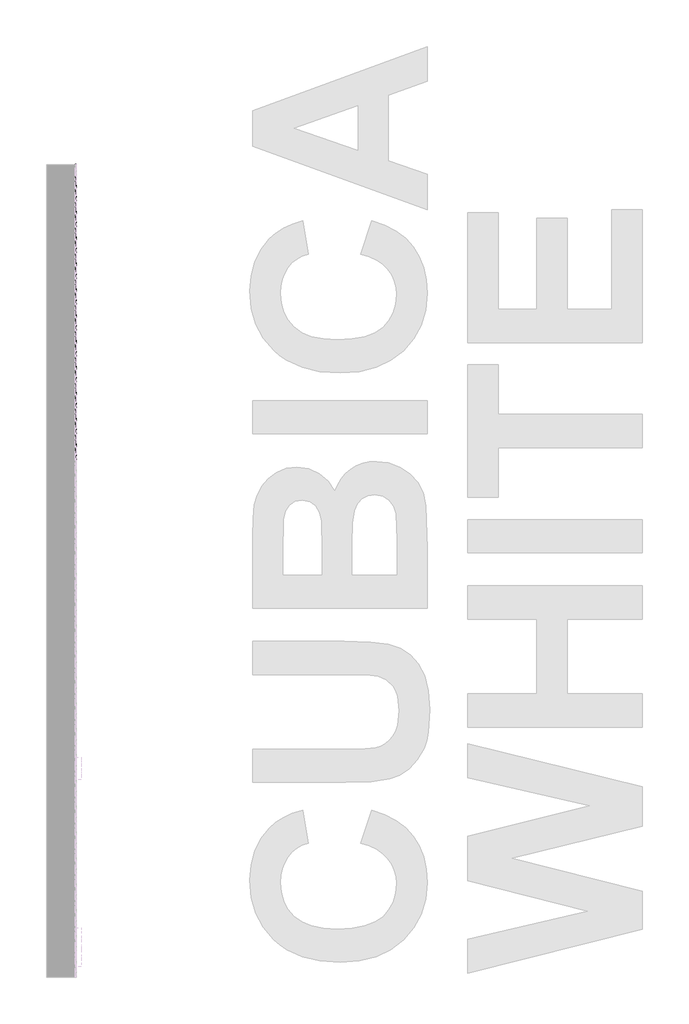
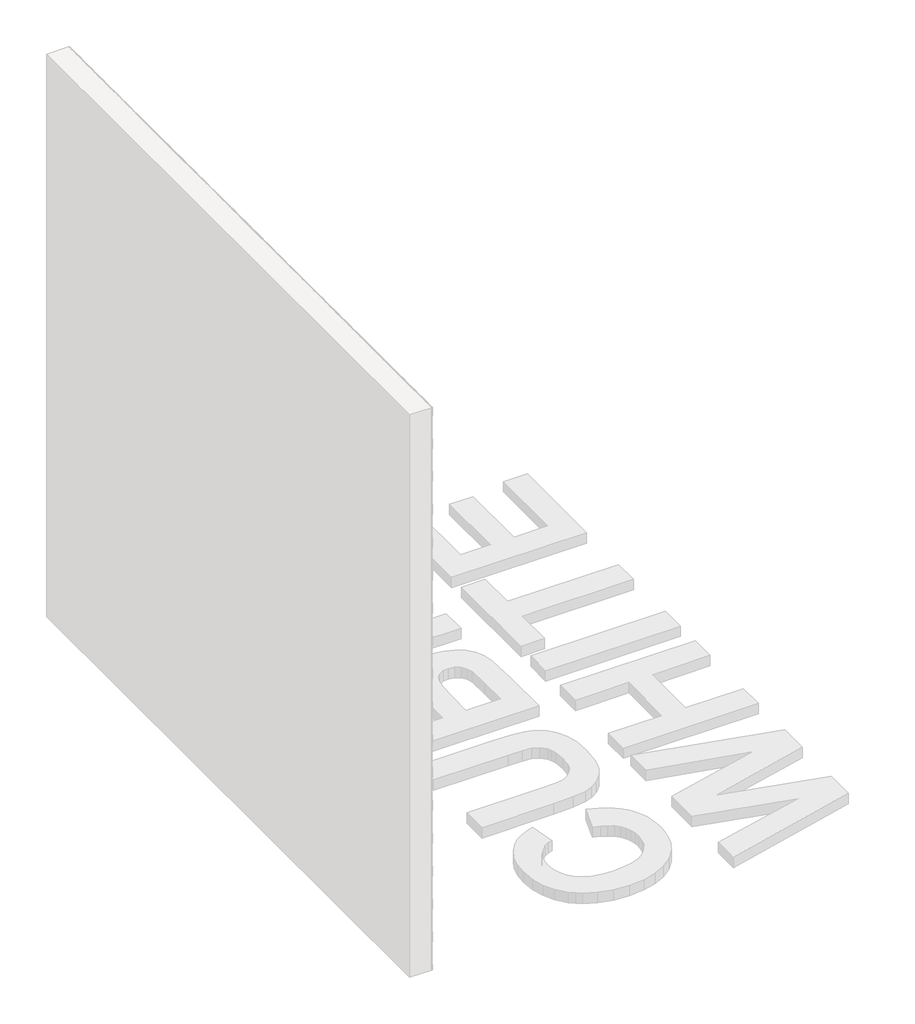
# One storey, part 116 of 121: 144 proxies.
"""IFC4 building model written with IfcOpenShell, lengths in millimetres."""

from ifc_helpers import new_model, si_unit, origin, place, context, project, spatial, transform, mapped, element, save
from components import generic_models_b2b2c5c1, generic_models_9bf73f6f, generic_models_5d175859, generic_models_0bb79e7c

model = new_model("IFC4")

# Units and contexts
model_context = context("Model", 3, world=origin())
ifc_project = project(units=[si_unit("LENGTHUNIT", "METRE", prefix="MILLI")], contexts=[model_context])

# Site, building, storey
site = spatial("IfcSite", under=ifc_project)
building = spatial("IfcBuilding", under=site)
storey = spatial("IfcBuildingStorey", under=building, Name="PORTOBELLO - SHOWROOM", Elevation=0.0)

# Proxies
placement = place(None, origin())
generic_models_shape = generic_models_b2b2c5c1(model_context)
element("IfcBuildingElementProxy", 1, Name="PBSHOP - CUBICA WHITE 4,8X8,3 : CUBICA WHITE - POSIÇÃO 01", ObjectType="PBSHOP - CUBICA WHITE 4,8X8,3 : CUBICA WHITE - POSIÇÃO 01", at=placement, inside=storey, context=model_context, shape_type="MappedRepresentation", body=[
    mapped(generic_models_shape, transform((150369.5341846, 21285.8509382, 986.6378273), x_axis=(0.0, 1.0, 0.0), y_axis=(0.0, 0.0, 1.0), z_axis=(1.0, 0.0, 0.0))),
])
element("IfcBuildingElementProxy", 2, Name="PBSHOP - CUBICA WHITE 4,8X8,3 : CUBICA WHITE - POSIÇÃO 01", ObjectType="PBSHOP - CUBICA WHITE 4,8X8,3 : CUBICA WHITE - POSIÇÃO 01", at=placement, inside=storey, context=model_context, shape_type="MappedRepresentation", body=[
    mapped(generic_models_shape, transform((150369.5341846, 21376.6902074, 986.6378273), x_axis=(0.0, 1.0, 0.0), y_axis=(0.0, 0.0, 1.0), z_axis=(1.0, 0.0, 0.0))),
])
element("IfcBuildingElementProxy", 3, Name="PBSHOP - CUBICA WHITE 4,8X8,3 : CUBICA WHITE - POSIÇÃO 01", ObjectType="PBSHOP - CUBICA WHITE 4,8X8,3 : CUBICA WHITE - POSIÇÃO 01", at=placement, inside=storey, context=model_context, shape_type="MappedRepresentation", body=[
    mapped(generic_models_shape, transform((150369.5341846, 21467.5294767, 986.6378273), x_axis=(0.0, 1.0, 0.0), y_axis=(0.0, 0.0, 1.0), z_axis=(1.0, 0.0, 0.0))),
])
element("IfcBuildingElementProxy", 4, Name="PBSHOP - CUBICA WHITE 4,8X8,3 : CUBICA WHITE - POSIÇÃO 01", ObjectType="PBSHOP - CUBICA WHITE 4,8X8,3 : CUBICA WHITE - POSIÇÃO 01", at=placement, inside=storey, context=model_context, shape_type="MappedRepresentation", body=[
    mapped(generic_models_shape, transform((150369.5341846, 21558.3687459, 986.6378273), x_axis=(0.0, 1.0, 0.0), y_axis=(0.0, 0.0, 1.0), z_axis=(1.0, 0.0, 0.0))),
])
element("IfcBuildingElementProxy", 5, Name="PBSHOP - CUBICA WHITE 4,8X8,3 : CUBICA WHITE - POSIÇÃO 01", ObjectType="PBSHOP - CUBICA WHITE 4,8X8,3 : CUBICA WHITE - POSIÇÃO 01", at=placement, inside=storey, context=model_context, shape_type="MappedRepresentation", body=[
    mapped(generic_models_shape, transform((150369.5341846, 21649.2080152, 986.6378273), x_axis=(0.0, 1.0, 0.0), y_axis=(0.0, 0.0, 1.0), z_axis=(1.0, 0.0, 0.0))),
])
element("IfcBuildingElementProxy", 6, Name="PBSHOP - CUBICA WHITE 4,8X8,3 : CUBICA WHITE - POSIÇÃO 01", ObjectType="PBSHOP - CUBICA WHITE 4,8X8,3 : CUBICA WHITE - POSIÇÃO 01", at=placement, inside=storey, context=model_context, shape_type="MappedRepresentation", body=[
    mapped(generic_models_shape, transform((150369.5341846, 21740.0472844, 986.6378273), x_axis=(0.0, 1.0, 0.0), y_axis=(0.0, 0.0, 1.0), z_axis=(1.0, 0.0, 0.0))),
])
element("IfcBuildingElementProxy", 7, Name="PBSHOP - CUBICA WHITE 4,8X8,3 : CUBICA WHITE - POSIÇÃO 01", ObjectType="PBSHOP - CUBICA WHITE 4,8X8,3 : CUBICA WHITE - POSIÇÃO 01", at=placement, inside=storey, context=model_context, shape_type="MappedRepresentation", body=[
    mapped(generic_models_shape, transform((150369.5341846, 21830.8865536, 986.6378273), x_axis=(0.0, 1.0, 0.0), y_axis=(0.0, 0.0, 1.0), z_axis=(1.0, 0.0, 0.0))),
])
element("IfcBuildingElementProxy", 8, Name="PBSHOP - CUBICA WHITE 4,8X8,3 : CUBICA WHITE - POSIÇÃO 01", ObjectType="PBSHOP - CUBICA WHITE 4,8X8,3 : CUBICA WHITE - POSIÇÃO 01", at=placement, inside=storey, context=model_context, shape_type="MappedRepresentation", body=[
    mapped(generic_models_shape, transform((150369.5341846, 21921.7258229, 986.6378273), x_axis=(0.0, 1.0, 0.0), y_axis=(0.0, 0.0, 1.0), z_axis=(1.0, 0.0, 0.0))),
])
element("IfcBuildingElementProxy", 9, Name="PBSHOP - CUBICA WHITE 4,8X8,3 : CUBICA WHITE - POSIÇÃO 01", ObjectType="PBSHOP - CUBICA WHITE 4,8X8,3 : CUBICA WHITE - POSIÇÃO 01", at=placement, inside=storey, context=model_context, shape_type="MappedRepresentation", body=[
    mapped(generic_models_shape, transform((150369.5341846, 21058.7527651, 1065.5724657), x_axis=(0.0, 1.0, 0.0), y_axis=(0.0, 0.0, 1.0), z_axis=(1.0, 0.0, 0.0))),
])
element("IfcBuildingElementProxy", 10, Name="PBSHOP - CUBICA WHITE 4,8X8,3 : CUBICA WHITE - POSIÇÃO 01", ObjectType="PBSHOP - CUBICA WHITE 4,8X8,3 : CUBICA WHITE - POSIÇÃO 01", at=placement, inside=storey, context=model_context, shape_type="MappedRepresentation", body=[
    mapped(generic_models_shape, transform((150369.5341846, 21149.5920343, 1065.5724657), x_axis=(0.0, 1.0, 0.0), y_axis=(0.0, 0.0, 1.0), z_axis=(1.0, 0.0, 0.0))),
])
element("IfcBuildingElementProxy", 11, Name="PBSHOP - CUBICA WHITE 4,8X8,3 : CUBICA WHITE - POSIÇÃO 01", ObjectType="PBSHOP - CUBICA WHITE 4,8X8,3 : CUBICA WHITE - POSIÇÃO 01", at=placement, inside=storey, context=model_context, shape_type="MappedRepresentation", body=[
    mapped(generic_models_shape, transform((150369.5341846, 21240.4313036, 1065.5724657), x_axis=(0.0, 1.0, 0.0), y_axis=(0.0, 0.0, 1.0), z_axis=(1.0, 0.0, 0.0))),
])
element("IfcBuildingElementProxy", 12, Name="PBSHOP - CUBICA WHITE 4,8X8,3 : CUBICA WHITE - POSIÇÃO 01", ObjectType="PBSHOP - CUBICA WHITE 4,8X8,3 : CUBICA WHITE - POSIÇÃO 01", at=placement, inside=storey, context=model_context, shape_type="MappedRepresentation", body=[
    mapped(generic_models_shape, transform((150369.5341846, 21331.2705728, 1065.5724657), x_axis=(0.0, 1.0, 0.0), y_axis=(0.0, 0.0, 1.0), z_axis=(1.0, 0.0, 0.0))),
])
element("IfcBuildingElementProxy", 13, Name="PBSHOP - CUBICA WHITE 4,8X8,3 : CUBICA WHITE - POSIÇÃO 01", ObjectType="PBSHOP - CUBICA WHITE 4,8X8,3 : CUBICA WHITE - POSIÇÃO 01", at=placement, inside=storey, context=model_context, shape_type="MappedRepresentation", body=[
    mapped(generic_models_shape, transform((150369.5341846, 21422.109842, 1065.5724657), x_axis=(0.0, 1.0, 0.0), y_axis=(0.0, 0.0, 1.0), z_axis=(1.0, 0.0, 0.0))),
])
element("IfcBuildingElementProxy", 14, Name="PBSHOP - CUBICA WHITE 4,8X8,3 : CUBICA WHITE - POSIÇÃO 01", ObjectType="PBSHOP - CUBICA WHITE 4,8X8,3 : CUBICA WHITE - POSIÇÃO 01", at=placement, inside=storey, context=model_context, shape_type="MappedRepresentation", body=[
    mapped(generic_models_shape, transform((150369.5341846, 21512.9491113, 1065.5724657), x_axis=(0.0, 1.0, 0.0), y_axis=(0.0, 0.0, 1.0), z_axis=(1.0, 0.0, 0.0))),
])
element("IfcBuildingElementProxy", 15, Name="PBSHOP - CUBICA WHITE 4,8X8,3 : CUBICA WHITE - POSIÇÃO 01", ObjectType="PBSHOP - CUBICA WHITE 4,8X8,3 : CUBICA WHITE - POSIÇÃO 01", at=placement, inside=storey, context=model_context, shape_type="MappedRepresentation", body=[
    mapped(generic_models_shape, transform((150369.5341846, 21603.7883805, 1065.5724657), x_axis=(0.0, 1.0, 0.0), y_axis=(0.0, 0.0, 1.0), z_axis=(1.0, 0.0, 0.0))),
])
element("IfcBuildingElementProxy", 16, Name="PBSHOP - CUBICA WHITE 4,8X8,3 : CUBICA WHITE - POSIÇÃO 01", ObjectType="PBSHOP - CUBICA WHITE 4,8X8,3 : CUBICA WHITE - POSIÇÃO 01", at=placement, inside=storey, context=model_context, shape_type="MappedRepresentation", body=[
    mapped(generic_models_shape, transform((150369.5341846, 21694.6276498, 1065.5724657), x_axis=(0.0, 1.0, 0.0), y_axis=(0.0, 0.0, 1.0), z_axis=(1.0, 0.0, 0.0))),
])
element("IfcBuildingElementProxy", 17, Name="PBSHOP - CUBICA WHITE 4,8X8,3 : CUBICA WHITE - POSIÇÃO 01", ObjectType="PBSHOP - CUBICA WHITE 4,8X8,3 : CUBICA WHITE - POSIÇÃO 01", at=placement, inside=storey, context=model_context, shape_type="MappedRepresentation", body=[
    mapped(generic_models_shape, transform((150369.5341846, 21785.466919, 1065.5724657), x_axis=(0.0, 1.0, 0.0), y_axis=(0.0, 0.0, 1.0), z_axis=(1.0, 0.0, 0.0))),
])
element("IfcBuildingElementProxy", 18, Name="PBSHOP - CUBICA WHITE 4,8X8,3 : CUBICA WHITE - POSIÇÃO 01", ObjectType="PBSHOP - CUBICA WHITE 4,8X8,3 : CUBICA WHITE - POSIÇÃO 01", at=placement, inside=storey, context=model_context, shape_type="MappedRepresentation", body=[
    mapped(generic_models_shape, transform((150369.5341846, 21876.3061883, 1065.5724657), x_axis=(0.0, 1.0, 0.0), y_axis=(0.0, 0.0, 1.0), z_axis=(1.0, 0.0, 0.0))),
])
element("IfcBuildingElementProxy", 19, Name="PBSHOP - CUBICA WHITE 4,8X8,3 : CUBICA WHITE - POSIÇÃO 01", ObjectType="PBSHOP - CUBICA WHITE 4,8X8,3 : CUBICA WHITE - POSIÇÃO 01", at=placement, inside=storey, context=model_context, shape_type="MappedRepresentation", body=[
    mapped(generic_models_shape, transform((150369.5341846, 21967.1454575, 1065.5724657), x_axis=(0.0, 1.0, 0.0), y_axis=(0.0, 0.0, 1.0), z_axis=(1.0, 0.0, 0.0))),
])
element("IfcBuildingElementProxy", 20, Name="PBSHOP - CUBICA WHITE 4,8X8,3 : CUBICA WHITE - POSIÇÃO 01", ObjectType="PBSHOP - CUBICA WHITE 4,8X8,3 : CUBICA WHITE - POSIÇÃO 01", at=placement, inside=storey, context=model_context, shape_type="MappedRepresentation", body=[
    mapped(generic_models_shape, transform((150369.5341846, 21013.3331304, 1144.507104), x_axis=(0.0, 1.0, 0.0), y_axis=(0.0, 0.0, 1.0), z_axis=(1.0, 0.0, 0.0))),
])
element("IfcBuildingElementProxy", 21, Name="PBSHOP - CUBICA WHITE 4,8X8,3 : CUBICA WHITE - POSIÇÃO 01", ObjectType="PBSHOP - CUBICA WHITE 4,8X8,3 : CUBICA WHITE - POSIÇÃO 01", at=placement, inside=storey, context=model_context, shape_type="MappedRepresentation", body=[
    mapped(generic_models_shape, transform((150369.5341846, 21104.1723997, 1144.507104), x_axis=(0.0, 1.0, 0.0), y_axis=(0.0, 0.0, 1.0), z_axis=(1.0, 0.0, 0.0))),
])
element("IfcBuildingElementProxy", 22, Name="PBSHOP - CUBICA WHITE 4,8X8,3 : CUBICA WHITE - POSIÇÃO 01", ObjectType="PBSHOP - CUBICA WHITE 4,8X8,3 : CUBICA WHITE - POSIÇÃO 01", at=placement, inside=storey, context=model_context, shape_type="MappedRepresentation", body=[
    mapped(generic_models_shape, transform((150369.5341846, 21195.0116689, 1144.507104), x_axis=(0.0, 1.0, 0.0), y_axis=(0.0, 0.0, 1.0), z_axis=(1.0, 0.0, 0.0))),
])
element("IfcBuildingElementProxy", 23, Name="PBSHOP - CUBICA WHITE 4,8X8,3 : CUBICA WHITE - POSIÇÃO 01", ObjectType="PBSHOP - CUBICA WHITE 4,8X8,3 : CUBICA WHITE - POSIÇÃO 01", at=placement, inside=storey, context=model_context, shape_type="MappedRepresentation", body=[
    mapped(generic_models_shape, transform((150369.5341846, 21285.8509382, 1144.507104), x_axis=(0.0, 1.0, 0.0), y_axis=(0.0, 0.0, 1.0), z_axis=(1.0, 0.0, 0.0))),
])
element("IfcBuildingElementProxy", 24, Name="PBSHOP - CUBICA WHITE 4,8X8,3 : CUBICA WHITE - POSIÇÃO 01", ObjectType="PBSHOP - CUBICA WHITE 4,8X8,3 : CUBICA WHITE - POSIÇÃO 01", at=placement, inside=storey, context=model_context, shape_type="MappedRepresentation", body=[
    mapped(generic_models_shape, transform((150369.5341846, 21376.6902074, 1144.507104), x_axis=(0.0, 1.0, 0.0), y_axis=(0.0, 0.0, 1.0), z_axis=(1.0, 0.0, 0.0))),
])
element("IfcBuildingElementProxy", 25, Name="PBSHOP - CUBICA WHITE 4,8X8,3 : CUBICA WHITE - POSIÇÃO 01", ObjectType="PBSHOP - CUBICA WHITE 4,8X8,3 : CUBICA WHITE - POSIÇÃO 01", at=placement, inside=storey, context=model_context, shape_type="MappedRepresentation", body=[
    mapped(generic_models_shape, transform((150369.5341846, 21467.5294767, 1144.507104), x_axis=(0.0, 1.0, 0.0), y_axis=(0.0, 0.0, 1.0), z_axis=(1.0, 0.0, 0.0))),
])
element("IfcBuildingElementProxy", 26, Name="PBSHOP - CUBICA WHITE 4,8X8,3 : CUBICA WHITE - POSIÇÃO 01", ObjectType="PBSHOP - CUBICA WHITE 4,8X8,3 : CUBICA WHITE - POSIÇÃO 01", at=placement, inside=storey, context=model_context, shape_type="MappedRepresentation", body=[
    mapped(generic_models_shape, transform((150369.5341846, 21558.3687459, 1144.507104), x_axis=(0.0, 1.0, 0.0), y_axis=(0.0, 0.0, 1.0), z_axis=(1.0, 0.0, 0.0))),
])
element("IfcBuildingElementProxy", 27, Name="PBSHOP - CUBICA WHITE 4,8X8,3 : CUBICA WHITE - POSIÇÃO 01", ObjectType="PBSHOP - CUBICA WHITE 4,8X8,3 : CUBICA WHITE - POSIÇÃO 01", at=placement, inside=storey, context=model_context, shape_type="MappedRepresentation", body=[
    mapped(generic_models_shape, transform((150369.5341846, 21649.2080152, 1144.507104), x_axis=(0.0, 1.0, 0.0), y_axis=(0.0, 0.0, 1.0), z_axis=(1.0, 0.0, 0.0))),
])
element("IfcBuildingElementProxy", 28, Name="PBSHOP - CUBICA WHITE 4,8X8,3 : CUBICA WHITE - POSIÇÃO 01", ObjectType="PBSHOP - CUBICA WHITE 4,8X8,3 : CUBICA WHITE - POSIÇÃO 01", at=placement, inside=storey, context=model_context, shape_type="MappedRepresentation", body=[
    mapped(generic_models_shape, transform((150369.5341846, 21740.0472844, 1144.507104), x_axis=(0.0, 1.0, 0.0), y_axis=(0.0, 0.0, 1.0), z_axis=(1.0, 0.0, 0.0))),
])
element("IfcBuildingElementProxy", 29, Name="PBSHOP - CUBICA WHITE 4,8X8,3 : CUBICA WHITE - POSIÇÃO 01", ObjectType="PBSHOP - CUBICA WHITE 4,8X8,3 : CUBICA WHITE - POSIÇÃO 01", at=placement, inside=storey, context=model_context, shape_type="MappedRepresentation", body=[
    mapped(generic_models_shape, transform((150369.5341846, 21830.8865536, 1144.507104), x_axis=(0.0, 1.0, 0.0), y_axis=(0.0, 0.0, 1.0), z_axis=(1.0, 0.0, 0.0))),
])
element("IfcBuildingElementProxy", 30, Name="PBSHOP - CUBICA WHITE 4,8X8,3 : CUBICA WHITE - POSIÇÃO 01", ObjectType="PBSHOP - CUBICA WHITE 4,8X8,3 : CUBICA WHITE - POSIÇÃO 01", at=placement, inside=storey, context=model_context, shape_type="MappedRepresentation", body=[
    mapped(generic_models_shape, transform((150369.5341846, 21921.7258229, 1144.507104), x_axis=(0.0, 1.0, 0.0), y_axis=(0.0, 0.0, 1.0), z_axis=(1.0, 0.0, 0.0))),
])
element("IfcBuildingElementProxy", 31, Name="PBSHOP - CUBICA WHITE 4,8X8,3 : CUBICA WHITE - POSIÇÃO 01", ObjectType="PBSHOP - CUBICA WHITE 4,8X8,3 : CUBICA WHITE - POSIÇÃO 01", at=placement, inside=storey, context=model_context, shape_type="MappedRepresentation", body=[
    mapped(generic_models_shape, transform((150369.5341846, 21058.7527651, 1223.4417424), x_axis=(0.0, 1.0, 0.0), y_axis=(0.0, 0.0, 1.0), z_axis=(1.0, 0.0, 0.0))),
])
element("IfcBuildingElementProxy", 32, Name="PBSHOP - CUBICA WHITE 4,8X8,3 : CUBICA WHITE - POSIÇÃO 01", ObjectType="PBSHOP - CUBICA WHITE 4,8X8,3 : CUBICA WHITE - POSIÇÃO 01", at=placement, inside=storey, context=model_context, shape_type="MappedRepresentation", body=[
    mapped(generic_models_shape, transform((150369.5341846, 21149.5920343, 1223.4417424), x_axis=(0.0, 1.0, 0.0), y_axis=(0.0, 0.0, 1.0), z_axis=(1.0, 0.0, 0.0))),
])
element("IfcBuildingElementProxy", 33, Name="PBSHOP - CUBICA WHITE 4,8X8,3 : CUBICA WHITE - POSIÇÃO 01", ObjectType="PBSHOP - CUBICA WHITE 4,8X8,3 : CUBICA WHITE - POSIÇÃO 01", at=placement, inside=storey, context=model_context, shape_type="MappedRepresentation", body=[
    mapped(generic_models_shape, transform((150369.5341846, 21240.4313036, 1223.4417424), x_axis=(0.0, 1.0, 0.0), y_axis=(0.0, 0.0, 1.0), z_axis=(1.0, 0.0, 0.0))),
])
element("IfcBuildingElementProxy", 34, Name="PBSHOP - CUBICA WHITE 4,8X8,3 : CUBICA WHITE - POSIÇÃO 01", ObjectType="PBSHOP - CUBICA WHITE 4,8X8,3 : CUBICA WHITE - POSIÇÃO 01", at=placement, inside=storey, context=model_context, shape_type="MappedRepresentation", body=[
    mapped(generic_models_shape, transform((150369.5341846, 21331.2705728, 1223.4417424), x_axis=(0.0, 1.0, 0.0), y_axis=(0.0, 0.0, 1.0), z_axis=(1.0, 0.0, 0.0))),
])
element("IfcBuildingElementProxy", 35, Name="PBSHOP - CUBICA WHITE 4,8X8,3 : CUBICA WHITE - POSIÇÃO 01", ObjectType="PBSHOP - CUBICA WHITE 4,8X8,3 : CUBICA WHITE - POSIÇÃO 01", at=placement, inside=storey, context=model_context, shape_type="MappedRepresentation", body=[
    mapped(generic_models_shape, transform((150369.5341846, 21422.109842, 1223.4417424), x_axis=(0.0, 1.0, 0.0), y_axis=(0.0, 0.0, 1.0), z_axis=(1.0, 0.0, 0.0))),
])
element("IfcBuildingElementProxy", 36, Name="PBSHOP - CUBICA WHITE 4,8X8,3 : CUBICA WHITE - POSIÇÃO 01", ObjectType="PBSHOP - CUBICA WHITE 4,8X8,3 : CUBICA WHITE - POSIÇÃO 01", at=placement, inside=storey, context=model_context, shape_type="MappedRepresentation", body=[
    mapped(generic_models_shape, transform((150369.5341846, 21512.9491113, 1223.4417424), x_axis=(0.0, 1.0, 0.0), y_axis=(0.0, 0.0, 1.0), z_axis=(1.0, 0.0, 0.0))),
])
element("IfcBuildingElementProxy", 37, Name="PBSHOP - CUBICA WHITE 4,8X8,3 : CUBICA WHITE - POSIÇÃO 01", ObjectType="PBSHOP - CUBICA WHITE 4,8X8,3 : CUBICA WHITE - POSIÇÃO 01", at=placement, inside=storey, context=model_context, shape_type="MappedRepresentation", body=[
    mapped(generic_models_shape, transform((150369.5341846, 21603.7883805, 1223.4417424), x_axis=(0.0, 1.0, 0.0), y_axis=(0.0, 0.0, 1.0), z_axis=(1.0, 0.0, 0.0))),
])
element("IfcBuildingElementProxy", 38, Name="PBSHOP - CUBICA WHITE 4,8X8,3 : CUBICA WHITE - POSIÇÃO 01", ObjectType="PBSHOP - CUBICA WHITE 4,8X8,3 : CUBICA WHITE - POSIÇÃO 01", at=placement, inside=storey, context=model_context, shape_type="MappedRepresentation", body=[
    mapped(generic_models_shape, transform((150369.5341846, 21694.6276498, 1223.4417424), x_axis=(0.0, 1.0, 0.0), y_axis=(0.0, 0.0, 1.0), z_axis=(1.0, 0.0, 0.0))),
])
element("IfcBuildingElementProxy", 39, Name="PBSHOP - CUBICA WHITE 4,8X8,3 : CUBICA WHITE - POSIÇÃO 01", ObjectType="PBSHOP - CUBICA WHITE 4,8X8,3 : CUBICA WHITE - POSIÇÃO 01", at=placement, inside=storey, context=model_context, shape_type="MappedRepresentation", body=[
    mapped(generic_models_shape, transform((150369.5341846, 21785.466919, 1223.4417424), x_axis=(0.0, 1.0, 0.0), y_axis=(0.0, 0.0, 1.0), z_axis=(1.0, 0.0, 0.0))),
])
element("IfcBuildingElementProxy", 40, Name="PBSHOP - CUBICA WHITE 4,8X8,3 : CUBICA WHITE - POSIÇÃO 01", ObjectType="PBSHOP - CUBICA WHITE 4,8X8,3 : CUBICA WHITE - POSIÇÃO 01", at=placement, inside=storey, context=model_context, shape_type="MappedRepresentation", body=[
    mapped(generic_models_shape, transform((150369.5341846, 21876.3061883, 1223.4417424), x_axis=(0.0, 1.0, 0.0), y_axis=(0.0, 0.0, 1.0), z_axis=(1.0, 0.0, 0.0))),
])
element("IfcBuildingElementProxy", 41, Name="PBSHOP - CUBICA WHITE 4,8X8,3 : CUBICA WHITE - POSIÇÃO 01", ObjectType="PBSHOP - CUBICA WHITE 4,8X8,3 : CUBICA WHITE - POSIÇÃO 01", at=placement, inside=storey, context=model_context, shape_type="MappedRepresentation", body=[
    mapped(generic_models_shape, transform((150369.5341846, 21967.1454575, 1223.4417424), x_axis=(0.0, 1.0, 0.0), y_axis=(0.0, 0.0, 1.0), z_axis=(1.0, 0.0, 0.0))),
])
element("IfcBuildingElementProxy", 42, Name="PBSHOP - CUBICA WHITE 4,8X8,3 : CUBICA WHITE - POSIÇÃO 01", ObjectType="PBSHOP - CUBICA WHITE 4,8X8,3 : CUBICA WHITE - POSIÇÃO 01", at=placement, inside=storey, context=model_context, shape_type="MappedRepresentation", body=[
    mapped(generic_models_shape, transform((150369.5341846, 21013.3331304, 1302.3763808), x_axis=(0.0, 1.0, 0.0), y_axis=(0.0, 0.0, 1.0), z_axis=(1.0, 0.0, 0.0))),
])
element("IfcBuildingElementProxy", 43, Name="PBSHOP - CUBICA WHITE 4,8X8,3 : CUBICA WHITE - POSIÇÃO 01", ObjectType="PBSHOP - CUBICA WHITE 4,8X8,3 : CUBICA WHITE - POSIÇÃO 01", at=placement, inside=storey, context=model_context, shape_type="MappedRepresentation", body=[
    mapped(generic_models_shape, transform((150369.5341846, 21104.1723997, 1302.3763808), x_axis=(0.0, 1.0, 0.0), y_axis=(0.0, 0.0, 1.0), z_axis=(1.0, 0.0, 0.0))),
])
element("IfcBuildingElementProxy", 44, Name="PBSHOP - CUBICA WHITE 4,8X8,3 : CUBICA WHITE - POSIÇÃO 01", ObjectType="PBSHOP - CUBICA WHITE 4,8X8,3 : CUBICA WHITE - POSIÇÃO 01", at=placement, inside=storey, context=model_context, shape_type="MappedRepresentation", body=[
    mapped(generic_models_shape, transform((150369.5341846, 21195.0116689, 1302.3763808), x_axis=(0.0, 1.0, 0.0), y_axis=(0.0, 0.0, 1.0), z_axis=(1.0, 0.0, 0.0))),
])
element("IfcBuildingElementProxy", 45, Name="PBSHOP - CUBICA WHITE 4,8X8,3 : CUBICA WHITE - POSIÇÃO 01", ObjectType="PBSHOP - CUBICA WHITE 4,8X8,3 : CUBICA WHITE - POSIÇÃO 01", at=placement, inside=storey, context=model_context, shape_type="MappedRepresentation", body=[
    mapped(generic_models_shape, transform((150369.5341846, 21285.8509382, 1302.3763808), x_axis=(0.0, 1.0, 0.0), y_axis=(0.0, 0.0, 1.0), z_axis=(1.0, 0.0, 0.0))),
])
element("IfcBuildingElementProxy", 46, Name="PBSHOP - CUBICA WHITE 4,8X8,3 : CUBICA WHITE - POSIÇÃO 01", ObjectType="PBSHOP - CUBICA WHITE 4,8X8,3 : CUBICA WHITE - POSIÇÃO 01", at=placement, inside=storey, context=model_context, shape_type="MappedRepresentation", body=[
    mapped(generic_models_shape, transform((150369.5341846, 21376.6902074, 1302.3763808), x_axis=(0.0, 1.0, 0.0), y_axis=(0.0, 0.0, 1.0), z_axis=(1.0, 0.0, 0.0))),
])
element("IfcBuildingElementProxy", 47, Name="PBSHOP - CUBICA WHITE 4,8X8,3 : CUBICA WHITE - POSIÇÃO 01", ObjectType="PBSHOP - CUBICA WHITE 4,8X8,3 : CUBICA WHITE - POSIÇÃO 01", at=placement, inside=storey, context=model_context, shape_type="MappedRepresentation", body=[
    mapped(generic_models_shape, transform((150369.5341846, 21467.5294767, 1302.3763808), x_axis=(0.0, 1.0, 0.0), y_axis=(0.0, 0.0, 1.0), z_axis=(1.0, 0.0, 0.0))),
])
element("IfcBuildingElementProxy", 48, Name="PBSHOP - CUBICA WHITE 4,8X8,3 : CUBICA WHITE - POSIÇÃO 01", ObjectType="PBSHOP - CUBICA WHITE 4,8X8,3 : CUBICA WHITE - POSIÇÃO 01", at=placement, inside=storey, context=model_context, shape_type="MappedRepresentation", body=[
    mapped(generic_models_shape, transform((150369.5341846, 21558.3687459, 1302.3763808), x_axis=(0.0, 1.0, 0.0), y_axis=(0.0, 0.0, 1.0), z_axis=(1.0, 0.0, 0.0))),
])
element("IfcBuildingElementProxy", 49, Name="PBSHOP - CUBICA WHITE 4,8X8,3 : CUBICA WHITE - POSIÇÃO 01", ObjectType="PBSHOP - CUBICA WHITE 4,8X8,3 : CUBICA WHITE - POSIÇÃO 01", at=placement, inside=storey, context=model_context, shape_type="MappedRepresentation", body=[
    mapped(generic_models_shape, transform((150369.5341846, 21649.2080152, 1302.3763808), x_axis=(0.0, 1.0, 0.0), y_axis=(0.0, 0.0, 1.0), z_axis=(1.0, 0.0, 0.0))),
])
element("IfcBuildingElementProxy", 50, Name="PBSHOP - CUBICA WHITE 4,8X8,3 : CUBICA WHITE - POSIÇÃO 01", ObjectType="PBSHOP - CUBICA WHITE 4,8X8,3 : CUBICA WHITE - POSIÇÃO 01", at=placement, inside=storey, context=model_context, shape_type="MappedRepresentation", body=[
    mapped(generic_models_shape, transform((150369.5341846, 21740.0472844, 1302.3763808), x_axis=(0.0, 1.0, 0.0), y_axis=(0.0, 0.0, 1.0), z_axis=(1.0, 0.0, 0.0))),
])
generic_models_2_shape = generic_models_9bf73f6f(model_context)
element("IfcBuildingElementProxy", 51, Name="PBSHOP - CUBICA WHITE 4,8X8,3 : CUBICA WHITE - POSIÇÃO 03", ObjectType="PBSHOP - CUBICA WHITE 4,8X8,3 : CUBICA WHITE - POSIÇÃO 03", at=placement, inside=storey, context=model_context, shape_type="MappedRepresentation", body=[
    mapped(generic_models_2_shape, transform((150369.5341846, 21081.4647415, 947.1292977), x_axis=(0.0, 1.0, 0.0), y_axis=(0.0, 0.0, 1.0), z_axis=(1.0, 0.0, 0.0))),
])
element("IfcBuildingElementProxy", 52, Name="PBSHOP - CUBICA WHITE 4,8X8,3 : CUBICA WHITE - POSIÇÃO 03", ObjectType="PBSHOP - CUBICA WHITE 4,8X8,3 : CUBICA WHITE - POSIÇÃO 03", at=placement, inside=storey, context=model_context, shape_type="MappedRepresentation", body=[
    mapped(generic_models_2_shape, transform((150369.5341846, 21172.3040108, 947.1292977), x_axis=(0.0, 1.0, 0.0), y_axis=(0.0, 0.0, 1.0), z_axis=(1.0, 0.0, 0.0))),
])
element("IfcBuildingElementProxy", 53, Name="PBSHOP - CUBICA WHITE 4,8X8,3 : CUBICA WHITE - POSIÇÃO 03", ObjectType="PBSHOP - CUBICA WHITE 4,8X8,3 : CUBICA WHITE - POSIÇÃO 03", at=placement, inside=storey, context=model_context, shape_type="MappedRepresentation", body=[
    mapped(generic_models_2_shape, transform((150369.5341846, 21263.14328, 947.1292977), x_axis=(0.0, 1.0, 0.0), y_axis=(0.0, 0.0, 1.0), z_axis=(1.0, 0.0, 0.0))),
])
element("IfcBuildingElementProxy", 54, Name="PBSHOP - CUBICA WHITE 4,8X8,3 : CUBICA WHITE - POSIÇÃO 03", ObjectType="PBSHOP - CUBICA WHITE 4,8X8,3 : CUBICA WHITE - POSIÇÃO 03", at=placement, inside=storey, context=model_context, shape_type="MappedRepresentation", body=[
    mapped(generic_models_2_shape, transform((150369.5341846, 21353.9825493, 947.1292977), x_axis=(0.0, 1.0, 0.0), y_axis=(0.0, 0.0, 1.0), z_axis=(1.0, 0.0, 0.0))),
])
element("IfcBuildingElementProxy", 55, Name="PBSHOP - CUBICA WHITE 4,8X8,3 : CUBICA WHITE - POSIÇÃO 03", ObjectType="PBSHOP - CUBICA WHITE 4,8X8,3 : CUBICA WHITE - POSIÇÃO 03", at=placement, inside=storey, context=model_context, shape_type="MappedRepresentation", body=[
    mapped(generic_models_2_shape, transform((150369.5341846, 21444.8218185, 947.1292977), x_axis=(0.0, 1.0, 0.0), y_axis=(0.0, 0.0, 1.0), z_axis=(1.0, 0.0, 0.0))),
])
element("IfcBuildingElementProxy", 56, Name="PBSHOP - CUBICA WHITE 4,8X8,3 : CUBICA WHITE - POSIÇÃO 03", ObjectType="PBSHOP - CUBICA WHITE 4,8X8,3 : CUBICA WHITE - POSIÇÃO 03", at=placement, inside=storey, context=model_context, shape_type="MappedRepresentation", body=[
    mapped(generic_models_2_shape, transform((150369.5341846, 21535.6610878, 947.1292977), x_axis=(0.0, 1.0, 0.0), y_axis=(0.0, 0.0, 1.0), z_axis=(1.0, 0.0, 0.0))),
])
element("IfcBuildingElementProxy", 57, Name="PBSHOP - CUBICA WHITE 4,8X8,3 : CUBICA WHITE - POSIÇÃO 03", ObjectType="PBSHOP - CUBICA WHITE 4,8X8,3 : CUBICA WHITE - POSIÇÃO 03", at=placement, inside=storey, context=model_context, shape_type="MappedRepresentation", body=[
    mapped(generic_models_2_shape, transform((150369.5341846, 21626.500357, 947.1292977), x_axis=(0.0, 1.0, 0.0), y_axis=(0.0, 0.0, 1.0), z_axis=(1.0, 0.0, 0.0))),
])
element("IfcBuildingElementProxy", 58, Name="PBSHOP - CUBICA WHITE 4,8X8,3 : CUBICA WHITE - POSIÇÃO 03", ObjectType="PBSHOP - CUBICA WHITE 4,8X8,3 : CUBICA WHITE - POSIÇÃO 03", at=placement, inside=storey, context=model_context, shape_type="MappedRepresentation", body=[
    mapped(generic_models_2_shape, transform((150369.5341846, 21717.3396263, 947.1292977), x_axis=(0.0, 1.0, 0.0), y_axis=(0.0, 0.0, 1.0), z_axis=(1.0, 0.0, 0.0))),
])
element("IfcBuildingElementProxy", 59, Name="PBSHOP - CUBICA WHITE 4,8X8,3 : CUBICA WHITE - POSIÇÃO 03", ObjectType="PBSHOP - CUBICA WHITE 4,8X8,3 : CUBICA WHITE - POSIÇÃO 03", at=placement, inside=storey, context=model_context, shape_type="MappedRepresentation", body=[
    mapped(generic_models_2_shape, transform((150369.5341846, 21808.1788955, 947.1292977), x_axis=(0.0, 1.0, 0.0), y_axis=(0.0, 0.0, 1.0), z_axis=(1.0, 0.0, 0.0))),
])
element("IfcBuildingElementProxy", 60, Name="PBSHOP - CUBICA WHITE 4,8X8,3 : CUBICA WHITE - POSIÇÃO 03", ObjectType="PBSHOP - CUBICA WHITE 4,8X8,3 : CUBICA WHITE - POSIÇÃO 03", at=placement, inside=storey, context=model_context, shape_type="MappedRepresentation", body=[
    mapped(generic_models_2_shape, transform((150369.5341846, 21899.0181647, 947.1292977), x_axis=(0.0, 1.0, 0.0), y_axis=(0.0, 0.0, 1.0), z_axis=(1.0, 0.0, 0.0))),
])
element("IfcBuildingElementProxy", 61, Name="PBSHOP - CUBICA WHITE 4,8X8,3 : CUBICA WHITE - POSIÇÃO 03", ObjectType="PBSHOP - CUBICA WHITE 4,8X8,3 : CUBICA WHITE - POSIÇÃO 03", at=placement, inside=storey, context=model_context, shape_type="MappedRepresentation", body=[
    mapped(generic_models_2_shape, transform((150369.5341846, 21036.0451069, 1026.0639361), x_axis=(0.0, 1.0, 0.0), y_axis=(0.0, 0.0, 1.0), z_axis=(1.0, 0.0, 0.0))),
])
element("IfcBuildingElementProxy", 62, Name="PBSHOP - CUBICA WHITE 4,8X8,3 : CUBICA WHITE - POSIÇÃO 03", ObjectType="PBSHOP - CUBICA WHITE 4,8X8,3 : CUBICA WHITE - POSIÇÃO 03", at=placement, inside=storey, context=model_context, shape_type="MappedRepresentation", body=[
    mapped(generic_models_2_shape, transform((150369.5341846, 21126.8843762, 1026.0639361), x_axis=(0.0, 1.0, 0.0), y_axis=(0.0, 0.0, 1.0), z_axis=(1.0, 0.0, 0.0))),
])
element("IfcBuildingElementProxy", 63, Name="PBSHOP - CUBICA WHITE 4,8X8,3 : CUBICA WHITE - POSIÇÃO 03", ObjectType="PBSHOP - CUBICA WHITE 4,8X8,3 : CUBICA WHITE - POSIÇÃO 03", at=placement, inside=storey, context=model_context, shape_type="MappedRepresentation", body=[
    mapped(generic_models_2_shape, transform((150369.5341846, 21217.7236454, 1026.0639361), x_axis=(0.0, 1.0, 0.0), y_axis=(0.0, 0.0, 1.0), z_axis=(1.0, 0.0, 0.0))),
])
element("IfcBuildingElementProxy", 64, Name="PBSHOP - CUBICA WHITE 4,8X8,3 : CUBICA WHITE - POSIÇÃO 03", ObjectType="PBSHOP - CUBICA WHITE 4,8X8,3 : CUBICA WHITE - POSIÇÃO 03", at=placement, inside=storey, context=model_context, shape_type="MappedRepresentation", body=[
    mapped(generic_models_2_shape, transform((150369.5341846, 21308.5629147, 1026.0639361), x_axis=(0.0, 1.0, 0.0), y_axis=(0.0, 0.0, 1.0), z_axis=(1.0, 0.0, 0.0))),
])
element("IfcBuildingElementProxy", 65, Name="PBSHOP - CUBICA WHITE 4,8X8,3 : CUBICA WHITE - POSIÇÃO 03", ObjectType="PBSHOP - CUBICA WHITE 4,8X8,3 : CUBICA WHITE - POSIÇÃO 03", at=placement, inside=storey, context=model_context, shape_type="MappedRepresentation", body=[
    mapped(generic_models_2_shape, transform((150369.5341846, 21399.4021839, 1026.0639361), x_axis=(0.0, 1.0, 0.0), y_axis=(0.0, 0.0, 1.0), z_axis=(1.0, 0.0, 0.0))),
])
element("IfcBuildingElementProxy", 66, Name="PBSHOP - CUBICA WHITE 4,8X8,3 : CUBICA WHITE - POSIÇÃO 03", ObjectType="PBSHOP - CUBICA WHITE 4,8X8,3 : CUBICA WHITE - POSIÇÃO 03", at=placement, inside=storey, context=model_context, shape_type="MappedRepresentation", body=[
    mapped(generic_models_2_shape, transform((150369.5341846, 21490.2414531, 1026.0639361), x_axis=(0.0, 1.0, 0.0), y_axis=(0.0, 0.0, 1.0), z_axis=(1.0, 0.0, 0.0))),
])
element("IfcBuildingElementProxy", 67, Name="PBSHOP - CUBICA WHITE 4,8X8,3 : CUBICA WHITE - POSIÇÃO 03", ObjectType="PBSHOP - CUBICA WHITE 4,8X8,3 : CUBICA WHITE - POSIÇÃO 03", at=placement, inside=storey, context=model_context, shape_type="MappedRepresentation", body=[
    mapped(generic_models_2_shape, transform((150369.5341846, 21581.0807224, 1026.0639361), x_axis=(0.0, 1.0, 0.0), y_axis=(0.0, 0.0, 1.0), z_axis=(1.0, 0.0, 0.0))),
])
element("IfcBuildingElementProxy", 68, Name="PBSHOP - CUBICA WHITE 4,8X8,3 : CUBICA WHITE - POSIÇÃO 03", ObjectType="PBSHOP - CUBICA WHITE 4,8X8,3 : CUBICA WHITE - POSIÇÃO 03", at=placement, inside=storey, context=model_context, shape_type="MappedRepresentation", body=[
    mapped(generic_models_2_shape, transform((150369.5341846, 21671.9199916, 1026.0639361), x_axis=(0.0, 1.0, 0.0), y_axis=(0.0, 0.0, 1.0), z_axis=(1.0, 0.0, 0.0))),
])
element("IfcBuildingElementProxy", 69, Name="PBSHOP - CUBICA WHITE 4,8X8,3 : CUBICA WHITE - POSIÇÃO 03", ObjectType="PBSHOP - CUBICA WHITE 4,8X8,3 : CUBICA WHITE - POSIÇÃO 03", at=placement, inside=storey, context=model_context, shape_type="MappedRepresentation", body=[
    mapped(generic_models_2_shape, transform((150369.5341846, 21762.7592609, 1026.0639361), x_axis=(0.0, 1.0, 0.0), y_axis=(0.0, 0.0, 1.0), z_axis=(1.0, 0.0, 0.0))),
])
element("IfcBuildingElementProxy", 70, Name="PBSHOP - CUBICA WHITE 4,8X8,3 : CUBICA WHITE - POSIÇÃO 03", ObjectType="PBSHOP - CUBICA WHITE 4,8X8,3 : CUBICA WHITE - POSIÇÃO 03", at=placement, inside=storey, context=model_context, shape_type="MappedRepresentation", body=[
    mapped(generic_models_2_shape, transform((150369.5341846, 21853.5985301, 1026.0639361), x_axis=(0.0, 1.0, 0.0), y_axis=(0.0, 0.0, 1.0), z_axis=(1.0, 0.0, 0.0))),
])
element("IfcBuildingElementProxy", 71, Name="PBSHOP - CUBICA WHITE 4,8X8,3 : CUBICA WHITE - POSIÇÃO 03", ObjectType="PBSHOP - CUBICA WHITE 4,8X8,3 : CUBICA WHITE - POSIÇÃO 03", at=placement, inside=storey, context=model_context, shape_type="MappedRepresentation", body=[
    mapped(generic_models_2_shape, transform((150369.5341846, 21944.4377994, 1026.0639361), x_axis=(0.0, 1.0, 0.0), y_axis=(0.0, 0.0, 1.0), z_axis=(1.0, 0.0, 0.0))),
])
element("IfcBuildingElementProxy", 72, Name="PBSHOP - CUBICA WHITE 4,8X8,3 : CUBICA WHITE - POSIÇÃO 03", ObjectType="PBSHOP - CUBICA WHITE 4,8X8,3 : CUBICA WHITE - POSIÇÃO 03", at=placement, inside=storey, context=model_context, shape_type="MappedRepresentation", body=[
    mapped(generic_models_2_shape, transform((150369.5341846, 21081.4647415, 1104.9985744), x_axis=(0.0, 1.0, 0.0), y_axis=(0.0, 0.0, 1.0), z_axis=(1.0, 0.0, 0.0))),
])
element("IfcBuildingElementProxy", 73, Name="PBSHOP - CUBICA WHITE 4,8X8,3 : CUBICA WHITE - POSIÇÃO 03", ObjectType="PBSHOP - CUBICA WHITE 4,8X8,3 : CUBICA WHITE - POSIÇÃO 03", at=placement, inside=storey, context=model_context, shape_type="MappedRepresentation", body=[
    mapped(generic_models_2_shape, transform((150369.5341846, 21172.3040108, 1104.9985744), x_axis=(0.0, 1.0, 0.0), y_axis=(0.0, 0.0, 1.0), z_axis=(1.0, 0.0, 0.0))),
])
element("IfcBuildingElementProxy", 74, Name="PBSHOP - CUBICA WHITE 4,8X8,3 : CUBICA WHITE - POSIÇÃO 03", ObjectType="PBSHOP - CUBICA WHITE 4,8X8,3 : CUBICA WHITE - POSIÇÃO 03", at=placement, inside=storey, context=model_context, shape_type="MappedRepresentation", body=[
    mapped(generic_models_2_shape, transform((150369.5341846, 21263.14328, 1104.9985744), x_axis=(0.0, 1.0, 0.0), y_axis=(0.0, 0.0, 1.0), z_axis=(1.0, 0.0, 0.0))),
])
element("IfcBuildingElementProxy", 75, Name="PBSHOP - CUBICA WHITE 4,8X8,3 : CUBICA WHITE - POSIÇÃO 03", ObjectType="PBSHOP - CUBICA WHITE 4,8X8,3 : CUBICA WHITE - POSIÇÃO 03", at=placement, inside=storey, context=model_context, shape_type="MappedRepresentation", body=[
    mapped(generic_models_2_shape, transform((150369.5341846, 21353.9825493, 1104.9985744), x_axis=(0.0, 1.0, 0.0), y_axis=(0.0, 0.0, 1.0), z_axis=(1.0, 0.0, 0.0))),
])
element("IfcBuildingElementProxy", 76, Name="PBSHOP - CUBICA WHITE 4,8X8,3 : CUBICA WHITE - POSIÇÃO 03", ObjectType="PBSHOP - CUBICA WHITE 4,8X8,3 : CUBICA WHITE - POSIÇÃO 03", at=placement, inside=storey, context=model_context, shape_type="MappedRepresentation", body=[
    mapped(generic_models_2_shape, transform((150369.5341846, 21444.8218185, 1104.9985744), x_axis=(0.0, 1.0, 0.0), y_axis=(0.0, 0.0, 1.0), z_axis=(1.0, 0.0, 0.0))),
])
element("IfcBuildingElementProxy", 77, Name="PBSHOP - CUBICA WHITE 4,8X8,3 : CUBICA WHITE - POSIÇÃO 03", ObjectType="PBSHOP - CUBICA WHITE 4,8X8,3 : CUBICA WHITE - POSIÇÃO 03", at=placement, inside=storey, context=model_context, shape_type="MappedRepresentation", body=[
    mapped(generic_models_2_shape, transform((150369.5341846, 21535.6610878, 1104.9985744), x_axis=(0.0, 1.0, 0.0), y_axis=(0.0, 0.0, 1.0), z_axis=(1.0, 0.0, 0.0))),
])
element("IfcBuildingElementProxy", 78, Name="PBSHOP - CUBICA WHITE 4,8X8,3 : CUBICA WHITE - POSIÇÃO 03", ObjectType="PBSHOP - CUBICA WHITE 4,8X8,3 : CUBICA WHITE - POSIÇÃO 03", at=placement, inside=storey, context=model_context, shape_type="MappedRepresentation", body=[
    mapped(generic_models_2_shape, transform((150369.5341846, 21626.500357, 1104.9985744), x_axis=(0.0, 1.0, 0.0), y_axis=(0.0, 0.0, 1.0), z_axis=(1.0, 0.0, 0.0))),
])
element("IfcBuildingElementProxy", 79, Name="PBSHOP - CUBICA WHITE 4,8X8,3 : CUBICA WHITE - POSIÇÃO 03", ObjectType="PBSHOP - CUBICA WHITE 4,8X8,3 : CUBICA WHITE - POSIÇÃO 03", at=placement, inside=storey, context=model_context, shape_type="MappedRepresentation", body=[
    mapped(generic_models_2_shape, transform((150369.5341846, 21717.3396263, 1104.9985744), x_axis=(0.0, 1.0, 0.0), y_axis=(0.0, 0.0, 1.0), z_axis=(1.0, 0.0, 0.0))),
])
element("IfcBuildingElementProxy", 80, Name="PBSHOP - CUBICA WHITE 4,8X8,3 : CUBICA WHITE - POSIÇÃO 03", ObjectType="PBSHOP - CUBICA WHITE 4,8X8,3 : CUBICA WHITE - POSIÇÃO 03", at=placement, inside=storey, context=model_context, shape_type="MappedRepresentation", body=[
    mapped(generic_models_2_shape, transform((150369.5341846, 21808.1788955, 1104.9985744), x_axis=(0.0, 1.0, 0.0), y_axis=(0.0, 0.0, 1.0), z_axis=(1.0, 0.0, 0.0))),
])
element("IfcBuildingElementProxy", 81, Name="PBSHOP - CUBICA WHITE 4,8X8,3 : CUBICA WHITE - POSIÇÃO 03", ObjectType="PBSHOP - CUBICA WHITE 4,8X8,3 : CUBICA WHITE - POSIÇÃO 03", at=placement, inside=storey, context=model_context, shape_type="MappedRepresentation", body=[
    mapped(generic_models_2_shape, transform((150369.5341846, 21899.0181647, 1104.9985744), x_axis=(0.0, 1.0, 0.0), y_axis=(0.0, 0.0, 1.0), z_axis=(1.0, 0.0, 0.0))),
])
element("IfcBuildingElementProxy", 82, Name="PBSHOP - CUBICA WHITE 4,8X8,3 : CUBICA WHITE - POSIÇÃO 03", ObjectType="PBSHOP - CUBICA WHITE 4,8X8,3 : CUBICA WHITE - POSIÇÃO 03", at=placement, inside=storey, context=model_context, shape_type="MappedRepresentation", body=[
    mapped(generic_models_2_shape, transform((150369.5341846, 21036.0451069, 1183.9332128), x_axis=(0.0, 1.0, 0.0), y_axis=(0.0, 0.0, 1.0), z_axis=(1.0, 0.0, 0.0))),
])
element("IfcBuildingElementProxy", 83, Name="PBSHOP - CUBICA WHITE 4,8X8,3 : CUBICA WHITE - POSIÇÃO 03", ObjectType="PBSHOP - CUBICA WHITE 4,8X8,3 : CUBICA WHITE - POSIÇÃO 03", at=placement, inside=storey, context=model_context, shape_type="MappedRepresentation", body=[
    mapped(generic_models_2_shape, transform((150369.5341846, 21126.8843762, 1183.9332128), x_axis=(0.0, 1.0, 0.0), y_axis=(0.0, 0.0, 1.0), z_axis=(1.0, 0.0, 0.0))),
])
element("IfcBuildingElementProxy", 84, Name="PBSHOP - CUBICA WHITE 4,8X8,3 : CUBICA WHITE - POSIÇÃO 03", ObjectType="PBSHOP - CUBICA WHITE 4,8X8,3 : CUBICA WHITE - POSIÇÃO 03", at=placement, inside=storey, context=model_context, shape_type="MappedRepresentation", body=[
    mapped(generic_models_2_shape, transform((150369.5341846, 21217.7236454, 1183.9332128), x_axis=(0.0, 1.0, 0.0), y_axis=(0.0, 0.0, 1.0), z_axis=(1.0, 0.0, 0.0))),
])
element("IfcBuildingElementProxy", 85, Name="PBSHOP - CUBICA WHITE 4,8X8,3 : CUBICA WHITE - POSIÇÃO 03", ObjectType="PBSHOP - CUBICA WHITE 4,8X8,3 : CUBICA WHITE - POSIÇÃO 03", at=placement, inside=storey, context=model_context, shape_type="MappedRepresentation", body=[
    mapped(generic_models_2_shape, transform((150369.5341846, 21308.5629147, 1183.9332128), x_axis=(0.0, 1.0, 0.0), y_axis=(0.0, 0.0, 1.0), z_axis=(1.0, 0.0, 0.0))),
])
element("IfcBuildingElementProxy", 86, Name="PBSHOP - CUBICA WHITE 4,8X8,3 : CUBICA WHITE - POSIÇÃO 03", ObjectType="PBSHOP - CUBICA WHITE 4,8X8,3 : CUBICA WHITE - POSIÇÃO 03", at=placement, inside=storey, context=model_context, shape_type="MappedRepresentation", body=[
    mapped(generic_models_2_shape, transform((150369.5341846, 21399.4021839, 1183.9332128), x_axis=(0.0, 1.0, 0.0), y_axis=(0.0, 0.0, 1.0), z_axis=(1.0, 0.0, 0.0))),
])
element("IfcBuildingElementProxy", 87, Name="PBSHOP - CUBICA WHITE 4,8X8,3 : CUBICA WHITE - POSIÇÃO 03", ObjectType="PBSHOP - CUBICA WHITE 4,8X8,3 : CUBICA WHITE - POSIÇÃO 03", at=placement, inside=storey, context=model_context, shape_type="MappedRepresentation", body=[
    mapped(generic_models_2_shape, transform((150369.5341846, 21490.2414531, 1183.9332128), x_axis=(0.0, 1.0, 0.0), y_axis=(0.0, 0.0, 1.0), z_axis=(1.0, 0.0, 0.0))),
])
element("IfcBuildingElementProxy", 88, Name="PBSHOP - CUBICA WHITE 4,8X8,3 : CUBICA WHITE - POSIÇÃO 03", ObjectType="PBSHOP - CUBICA WHITE 4,8X8,3 : CUBICA WHITE - POSIÇÃO 03", at=placement, inside=storey, context=model_context, shape_type="MappedRepresentation", body=[
    mapped(generic_models_2_shape, transform((150369.5341846, 21581.0807224, 1183.9332128), x_axis=(0.0, 1.0, 0.0), y_axis=(0.0, 0.0, 1.0), z_axis=(1.0, 0.0, 0.0))),
])
element("IfcBuildingElementProxy", 89, Name="PBSHOP - CUBICA WHITE 4,8X8,3 : CUBICA WHITE - POSIÇÃO 03", ObjectType="PBSHOP - CUBICA WHITE 4,8X8,3 : CUBICA WHITE - POSIÇÃO 03", at=placement, inside=storey, context=model_context, shape_type="MappedRepresentation", body=[
    mapped(generic_models_2_shape, transform((150369.5341846, 21671.9199916, 1183.9332128), x_axis=(0.0, 1.0, 0.0), y_axis=(0.0, 0.0, 1.0), z_axis=(1.0, 0.0, 0.0))),
])
element("IfcBuildingElementProxy", 90, Name="PBSHOP - CUBICA WHITE 4,8X8,3 : CUBICA WHITE - POSIÇÃO 03", ObjectType="PBSHOP - CUBICA WHITE 4,8X8,3 : CUBICA WHITE - POSIÇÃO 03", at=placement, inside=storey, context=model_context, shape_type="MappedRepresentation", body=[
    mapped(generic_models_2_shape, transform((150369.5341846, 21762.7592609, 1183.9332128), x_axis=(0.0, 1.0, 0.0), y_axis=(0.0, 0.0, 1.0), z_axis=(1.0, 0.0, 0.0))),
])
element("IfcBuildingElementProxy", 91, Name="PBSHOP - CUBICA WHITE 4,8X8,3 : CUBICA WHITE - POSIÇÃO 03", ObjectType="PBSHOP - CUBICA WHITE 4,8X8,3 : CUBICA WHITE - POSIÇÃO 03", at=placement, inside=storey, context=model_context, shape_type="MappedRepresentation", body=[
    mapped(generic_models_2_shape, transform((150369.5341846, 21853.5985301, 1183.9332128), x_axis=(0.0, 1.0, 0.0), y_axis=(0.0, 0.0, 1.0), z_axis=(1.0, 0.0, 0.0))),
])
element("IfcBuildingElementProxy", 92, Name="PBSHOP - CUBICA WHITE 4,8X8,3 : CUBICA WHITE - POSIÇÃO 03", ObjectType="PBSHOP - CUBICA WHITE 4,8X8,3 : CUBICA WHITE - POSIÇÃO 03", at=placement, inside=storey, context=model_context, shape_type="MappedRepresentation", body=[
    mapped(generic_models_2_shape, transform((150369.5341846, 21944.4377994, 1183.9332128), x_axis=(0.0, 1.0, 0.0), y_axis=(0.0, 0.0, 1.0), z_axis=(1.0, 0.0, 0.0))),
])
generic_models_3_shape = generic_models_5d175859(model_context)
element("IfcBuildingElementProxy", 93, Name="PBSHOP - CUBICA WHITE 4,8X8,3 : CUBICA WHITE - POSIÇÃO 01", ObjectType="PBSHOP - CUBICA WHITE 4,8X8,3 : CUBICA WHITE - POSIÇÃO 01", at=placement, inside=storey, context=model_context, shape_type="MappedRepresentation", body=[
    mapped(generic_models_3_shape, transform((150369.5341846, 21240.4356219, 986.6378273), x_axis=(0.0, -1.0, 0.0), y_axis=(0.0, 0.0, -1.0), z_axis=(1.0, 0.0, 0.0))),
])
element("IfcBuildingElementProxy", 94, Name="PBSHOP - CUBICA WHITE 4,8X8,3 : CUBICA WHITE - POSIÇÃO 01", ObjectType="PBSHOP - CUBICA WHITE 4,8X8,3 : CUBICA WHITE - POSIÇÃO 01", at=placement, inside=storey, context=model_context, shape_type="MappedRepresentation", body=[
    mapped(generic_models_3_shape, transform((150369.5341846, 21331.2748911, 986.6378273), x_axis=(0.0, -1.0, 0.0), y_axis=(0.0, 0.0, -1.0), z_axis=(1.0, 0.0, 0.0))),
])
element("IfcBuildingElementProxy", 95, Name="PBSHOP - CUBICA WHITE 4,8X8,3 : CUBICA WHITE - POSIÇÃO 01", ObjectType="PBSHOP - CUBICA WHITE 4,8X8,3 : CUBICA WHITE - POSIÇÃO 01", at=placement, inside=storey, context=model_context, shape_type="MappedRepresentation", body=[
    mapped(generic_models_3_shape, transform((150369.5341846, 21422.1141604, 986.6378273), x_axis=(0.0, -1.0, 0.0), y_axis=(0.0, 0.0, -1.0), z_axis=(1.0, 0.0, 0.0))),
])
element("IfcBuildingElementProxy", 96, Name="PBSHOP - CUBICA WHITE 4,8X8,3 : CUBICA WHITE - POSIÇÃO 01", ObjectType="PBSHOP - CUBICA WHITE 4,8X8,3 : CUBICA WHITE - POSIÇÃO 01", at=placement, inside=storey, context=model_context, shape_type="MappedRepresentation", body=[
    mapped(generic_models_3_shape, transform((150369.5341846, 21512.9534296, 986.6378273), x_axis=(0.0, -1.0, 0.0), y_axis=(0.0, 0.0, -1.0), z_axis=(1.0, 0.0, 0.0))),
])
element("IfcBuildingElementProxy", 97, Name="PBSHOP - CUBICA WHITE 4,8X8,3 : CUBICA WHITE - POSIÇÃO 01", ObjectType="PBSHOP - CUBICA WHITE 4,8X8,3 : CUBICA WHITE - POSIÇÃO 01", at=placement, inside=storey, context=model_context, shape_type="MappedRepresentation", body=[
    mapped(generic_models_3_shape, transform((150369.5341846, 21603.7926989, 986.6378273), x_axis=(0.0, -1.0, 0.0), y_axis=(0.0, 0.0, -1.0), z_axis=(1.0, 0.0, 0.0))),
])
element("IfcBuildingElementProxy", 98, Name="PBSHOP - CUBICA WHITE 4,8X8,3 : CUBICA WHITE - POSIÇÃO 01", ObjectType="PBSHOP - CUBICA WHITE 4,8X8,3 : CUBICA WHITE - POSIÇÃO 01", at=placement, inside=storey, context=model_context, shape_type="MappedRepresentation", body=[
    mapped(generic_models_3_shape, transform((150369.5341846, 21694.6319681, 986.6378273), x_axis=(0.0, -1.0, 0.0), y_axis=(0.0, 0.0, -1.0), z_axis=(1.0, 0.0, 0.0))),
])
element("IfcBuildingElementProxy", 99, Name="PBSHOP - CUBICA WHITE 4,8X8,3 : CUBICA WHITE - POSIÇÃO 01", ObjectType="PBSHOP - CUBICA WHITE 4,8X8,3 : CUBICA WHITE - POSIÇÃO 01", at=placement, inside=storey, context=model_context, shape_type="MappedRepresentation", body=[
    mapped(generic_models_3_shape, transform((150369.5341846, 21785.4712374, 986.6378273), x_axis=(0.0, -1.0, 0.0), y_axis=(0.0, 0.0, -1.0), z_axis=(1.0, 0.0, 0.0))),
])
element("IfcBuildingElementProxy", 100, Name="PBSHOP - CUBICA WHITE 4,8X8,3 : CUBICA WHITE - POSIÇÃO 01", ObjectType="PBSHOP - CUBICA WHITE 4,8X8,3 : CUBICA WHITE - POSIÇÃO 01", at=placement, inside=storey, context=model_context, shape_type="MappedRepresentation", body=[
    mapped(generic_models_3_shape, transform((150369.5341846, 21876.3105066, 986.6378273), x_axis=(0.0, -1.0, 0.0), y_axis=(0.0, 0.0, -1.0), z_axis=(1.0, 0.0, 0.0))),
])
element("IfcBuildingElementProxy", 101, Name="PBSHOP - CUBICA WHITE 4,8X8,3 : CUBICA WHITE - POSIÇÃO 01", ObjectType="PBSHOP - CUBICA WHITE 4,8X8,3 : CUBICA WHITE - POSIÇÃO 01", at=placement, inside=storey, context=model_context, shape_type="MappedRepresentation", body=[
    mapped(generic_models_3_shape, transform((150369.5341846, 21967.1497758, 986.6378273), x_axis=(0.0, -1.0, 0.0), y_axis=(0.0, 0.0, -1.0), z_axis=(1.0, 0.0, 0.0))),
])
element("IfcBuildingElementProxy", 102, Name="PBSHOP - CUBICA WHITE 4,8X8,3 : CUBICA WHITE - POSIÇÃO 01", ObjectType="PBSHOP - CUBICA WHITE 4,8X8,3 : CUBICA WHITE - POSIÇÃO 01", at=placement, inside=storey, context=model_context, shape_type="MappedRepresentation", body=[
    mapped(generic_models_3_shape, transform((150369.5341846, 21013.3374488, 1065.5724657), x_axis=(0.0, -1.0, 0.0), y_axis=(0.0, 0.0, -1.0), z_axis=(1.0, 0.0, 0.0))),
])
element("IfcBuildingElementProxy", 103, Name="PBSHOP - CUBICA WHITE 4,8X8,3 : CUBICA WHITE - POSIÇÃO 01", ObjectType="PBSHOP - CUBICA WHITE 4,8X8,3 : CUBICA WHITE - POSIÇÃO 01", at=placement, inside=storey, context=model_context, shape_type="MappedRepresentation", body=[
    mapped(generic_models_3_shape, transform((150369.5341846, 21104.176718, 1065.5724657), x_axis=(0.0, -1.0, 0.0), y_axis=(0.0, 0.0, -1.0), z_axis=(1.0, 0.0, 0.0))),
])
element("IfcBuildingElementProxy", 104, Name="PBSHOP - CUBICA WHITE 4,8X8,3 : CUBICA WHITE - POSIÇÃO 01", ObjectType="PBSHOP - CUBICA WHITE 4,8X8,3 : CUBICA WHITE - POSIÇÃO 01", at=placement, inside=storey, context=model_context, shape_type="MappedRepresentation", body=[
    mapped(generic_models_3_shape, transform((150369.5341846, 21195.0159873, 1065.5724657), x_axis=(0.0, -1.0, 0.0), y_axis=(0.0, 0.0, -1.0), z_axis=(1.0, 0.0, 0.0))),
])
element("IfcBuildingElementProxy", 105, Name="PBSHOP - CUBICA WHITE 4,8X8,3 : CUBICA WHITE - POSIÇÃO 01", ObjectType="PBSHOP - CUBICA WHITE 4,8X8,3 : CUBICA WHITE - POSIÇÃO 01", at=placement, inside=storey, context=model_context, shape_type="MappedRepresentation", body=[
    mapped(generic_models_3_shape, transform((150369.5341846, 21285.8552565, 1065.5724657), x_axis=(0.0, -1.0, 0.0), y_axis=(0.0, 0.0, -1.0), z_axis=(1.0, 0.0, 0.0))),
])
element("IfcBuildingElementProxy", 106, Name="PBSHOP - CUBICA WHITE 4,8X8,3 : CUBICA WHITE - POSIÇÃO 01", ObjectType="PBSHOP - CUBICA WHITE 4,8X8,3 : CUBICA WHITE - POSIÇÃO 01", at=placement, inside=storey, context=model_context, shape_type="MappedRepresentation", body=[
    mapped(generic_models_3_shape, transform((150369.5341846, 21376.6945258, 1065.5724657), x_axis=(0.0, -1.0, 0.0), y_axis=(0.0, 0.0, -1.0), z_axis=(1.0, 0.0, 0.0))),
])
element("IfcBuildingElementProxy", 107, Name="PBSHOP - CUBICA WHITE 4,8X8,3 : CUBICA WHITE - POSIÇÃO 01", ObjectType="PBSHOP - CUBICA WHITE 4,8X8,3 : CUBICA WHITE - POSIÇÃO 01", at=placement, inside=storey, context=model_context, shape_type="MappedRepresentation", body=[
    mapped(generic_models_3_shape, transform((150369.5341846, 21467.533795, 1065.5724657), x_axis=(0.0, -1.0, 0.0), y_axis=(0.0, 0.0, -1.0), z_axis=(1.0, 0.0, 0.0))),
])
element("IfcBuildingElementProxy", 108, Name="PBSHOP - CUBICA WHITE 4,8X8,3 : CUBICA WHITE - POSIÇÃO 01", ObjectType="PBSHOP - CUBICA WHITE 4,8X8,3 : CUBICA WHITE - POSIÇÃO 01", at=placement, inside=storey, context=model_context, shape_type="MappedRepresentation", body=[
    mapped(generic_models_3_shape, transform((150369.5341846, 21558.3730642, 1065.5724657), x_axis=(0.0, -1.0, 0.0), y_axis=(0.0, 0.0, -1.0), z_axis=(1.0, 0.0, 0.0))),
])
element("IfcBuildingElementProxy", 109, Name="PBSHOP - CUBICA WHITE 4,8X8,3 : CUBICA WHITE - POSIÇÃO 01", ObjectType="PBSHOP - CUBICA WHITE 4,8X8,3 : CUBICA WHITE - POSIÇÃO 01", at=placement, inside=storey, context=model_context, shape_type="MappedRepresentation", body=[
    mapped(generic_models_3_shape, transform((150369.5341846, 21649.2123335, 1065.5724657), x_axis=(0.0, -1.0, 0.0), y_axis=(0.0, 0.0, -1.0), z_axis=(1.0, 0.0, 0.0))),
])
element("IfcBuildingElementProxy", 110, Name="PBSHOP - CUBICA WHITE 4,8X8,3 : CUBICA WHITE - POSIÇÃO 01", ObjectType="PBSHOP - CUBICA WHITE 4,8X8,3 : CUBICA WHITE - POSIÇÃO 01", at=placement, inside=storey, context=model_context, shape_type="MappedRepresentation", body=[
    mapped(generic_models_3_shape, transform((150369.5341846, 21740.0516027, 1065.5724657), x_axis=(0.0, -1.0, 0.0), y_axis=(0.0, 0.0, -1.0), z_axis=(1.0, 0.0, 0.0))),
])
element("IfcBuildingElementProxy", 111, Name="PBSHOP - CUBICA WHITE 4,8X8,3 : CUBICA WHITE - POSIÇÃO 01", ObjectType="PBSHOP - CUBICA WHITE 4,8X8,3 : CUBICA WHITE - POSIÇÃO 01", at=placement, inside=storey, context=model_context, shape_type="MappedRepresentation", body=[
    mapped(generic_models_3_shape, transform((150369.5341846, 21830.890872, 1065.5724657), x_axis=(0.0, -1.0, 0.0), y_axis=(0.0, 0.0, -1.0), z_axis=(1.0, 0.0, 0.0))),
])
element("IfcBuildingElementProxy", 112, Name="PBSHOP - CUBICA WHITE 4,8X8,3 : CUBICA WHITE - POSIÇÃO 01", ObjectType="PBSHOP - CUBICA WHITE 4,8X8,3 : CUBICA WHITE - POSIÇÃO 01", at=placement, inside=storey, context=model_context, shape_type="MappedRepresentation", body=[
    mapped(generic_models_3_shape, transform((150369.5341846, 21921.7301412, 1065.5724657), x_axis=(0.0, -1.0, 0.0), y_axis=(0.0, 0.0, -1.0), z_axis=(1.0, 0.0, 0.0))),
])
element("IfcBuildingElementProxy", 113, Name="PBSHOP - CUBICA WHITE 4,8X8,3 : CUBICA WHITE - POSIÇÃO 01", ObjectType="PBSHOP - CUBICA WHITE 4,8X8,3 : CUBICA WHITE - POSIÇÃO 01", at=placement, inside=storey, context=model_context, shape_type="MappedRepresentation", body=[
    mapped(generic_models_3_shape, transform((150369.5341846, 21058.7570834, 1144.507104), x_axis=(0.0, -1.0, 0.0), y_axis=(0.0, 0.0, -1.0), z_axis=(1.0, 0.0, 0.0))),
])
element("IfcBuildingElementProxy", 114, Name="PBSHOP - CUBICA WHITE 4,8X8,3 : CUBICA WHITE - POSIÇÃO 01", ObjectType="PBSHOP - CUBICA WHITE 4,8X8,3 : CUBICA WHITE - POSIÇÃO 01", at=placement, inside=storey, context=model_context, shape_type="MappedRepresentation", body=[
    mapped(generic_models_3_shape, transform((150369.5341846, 21149.5963526, 1144.507104), x_axis=(0.0, -1.0, 0.0), y_axis=(0.0, 0.0, -1.0), z_axis=(1.0, 0.0, 0.0))),
])
element("IfcBuildingElementProxy", 115, Name="PBSHOP - CUBICA WHITE 4,8X8,3 : CUBICA WHITE - POSIÇÃO 01", ObjectType="PBSHOP - CUBICA WHITE 4,8X8,3 : CUBICA WHITE - POSIÇÃO 01", at=placement, inside=storey, context=model_context, shape_type="MappedRepresentation", body=[
    mapped(generic_models_3_shape, transform((150369.5341846, 21240.4356219, 1144.507104), x_axis=(0.0, -1.0, 0.0), y_axis=(0.0, 0.0, -1.0), z_axis=(1.0, 0.0, 0.0))),
])
element("IfcBuildingElementProxy", 116, Name="PBSHOP - CUBICA WHITE 4,8X8,3 : CUBICA WHITE - POSIÇÃO 01", ObjectType="PBSHOP - CUBICA WHITE 4,8X8,3 : CUBICA WHITE - POSIÇÃO 01", at=placement, inside=storey, context=model_context, shape_type="MappedRepresentation", body=[
    mapped(generic_models_3_shape, transform((150369.5341846, 21331.2748911, 1144.507104), x_axis=(0.0, -1.0, 0.0), y_axis=(0.0, 0.0, -1.0), z_axis=(1.0, 0.0, 0.0))),
])
element("IfcBuildingElementProxy", 117, Name="PBSHOP - CUBICA WHITE 4,8X8,3 : CUBICA WHITE - POSIÇÃO 01", ObjectType="PBSHOP - CUBICA WHITE 4,8X8,3 : CUBICA WHITE - POSIÇÃO 01", at=placement, inside=storey, context=model_context, shape_type="MappedRepresentation", body=[
    mapped(generic_models_3_shape, transform((150369.5341846, 21422.1141604, 1144.507104), x_axis=(0.0, -1.0, 0.0), y_axis=(0.0, 0.0, -1.0), z_axis=(1.0, 0.0, 0.0))),
])
element("IfcBuildingElementProxy", 118, Name="PBSHOP - CUBICA WHITE 4,8X8,3 : CUBICA WHITE - POSIÇÃO 01", ObjectType="PBSHOP - CUBICA WHITE 4,8X8,3 : CUBICA WHITE - POSIÇÃO 01", at=placement, inside=storey, context=model_context, shape_type="MappedRepresentation", body=[
    mapped(generic_models_3_shape, transform((150369.5341846, 21512.9534296, 1144.507104), x_axis=(0.0, -1.0, 0.0), y_axis=(0.0, 0.0, -1.0), z_axis=(1.0, 0.0, 0.0))),
])
element("IfcBuildingElementProxy", 119, Name="PBSHOP - CUBICA WHITE 4,8X8,3 : CUBICA WHITE - POSIÇÃO 01", ObjectType="PBSHOP - CUBICA WHITE 4,8X8,3 : CUBICA WHITE - POSIÇÃO 01", at=placement, inside=storey, context=model_context, shape_type="MappedRepresentation", body=[
    mapped(generic_models_3_shape, transform((150369.5341846, 21603.7926989, 1144.507104), x_axis=(0.0, -1.0, 0.0), y_axis=(0.0, 0.0, -1.0), z_axis=(1.0, 0.0, 0.0))),
])
element("IfcBuildingElementProxy", 120, Name="PBSHOP - CUBICA WHITE 4,8X8,3 : CUBICA WHITE - POSIÇÃO 01", ObjectType="PBSHOP - CUBICA WHITE 4,8X8,3 : CUBICA WHITE - POSIÇÃO 01", at=placement, inside=storey, context=model_context, shape_type="MappedRepresentation", body=[
    mapped(generic_models_3_shape, transform((150369.5341846, 21694.6319681, 1144.507104), x_axis=(0.0, -1.0, 0.0), y_axis=(0.0, 0.0, -1.0), z_axis=(1.0, 0.0, 0.0))),
])
element("IfcBuildingElementProxy", 121, Name="PBSHOP - CUBICA WHITE 4,8X8,3 : CUBICA WHITE - POSIÇÃO 01", ObjectType="PBSHOP - CUBICA WHITE 4,8X8,3 : CUBICA WHITE - POSIÇÃO 01", at=placement, inside=storey, context=model_context, shape_type="MappedRepresentation", body=[
    mapped(generic_models_3_shape, transform((150369.5341846, 21785.4712374, 1144.507104), x_axis=(0.0, -1.0, 0.0), y_axis=(0.0, 0.0, -1.0), z_axis=(1.0, 0.0, 0.0))),
])
element("IfcBuildingElementProxy", 122, Name="PBSHOP - CUBICA WHITE 4,8X8,3 : CUBICA WHITE - POSIÇÃO 01", ObjectType="PBSHOP - CUBICA WHITE 4,8X8,3 : CUBICA WHITE - POSIÇÃO 01", at=placement, inside=storey, context=model_context, shape_type="MappedRepresentation", body=[
    mapped(generic_models_3_shape, transform((150369.5341846, 21876.3105066, 1144.507104), x_axis=(0.0, -1.0, 0.0), y_axis=(0.0, 0.0, -1.0), z_axis=(1.0, 0.0, 0.0))),
])
element("IfcBuildingElementProxy", 123, Name="PBSHOP - CUBICA WHITE 4,8X8,3 : CUBICA WHITE - POSIÇÃO 01", ObjectType="PBSHOP - CUBICA WHITE 4,8X8,3 : CUBICA WHITE - POSIÇÃO 01", at=placement, inside=storey, context=model_context, shape_type="MappedRepresentation", body=[
    mapped(generic_models_3_shape, transform((150369.5341846, 21967.1497758, 1144.507104), x_axis=(0.0, -1.0, 0.0), y_axis=(0.0, 0.0, -1.0), z_axis=(1.0, 0.0, 0.0))),
])
element("IfcBuildingElementProxy", 124, Name="PBSHOP - CUBICA WHITE 4,8X8,3 : CUBICA WHITE - POSIÇÃO 01", ObjectType="PBSHOP - CUBICA WHITE 4,8X8,3 : CUBICA WHITE - POSIÇÃO 01", at=placement, inside=storey, context=model_context, shape_type="MappedRepresentation", body=[
    mapped(generic_models_3_shape, transform((150369.5341846, 21013.3374488, 1223.4417424), x_axis=(0.0, -1.0, 0.0), y_axis=(0.0, 0.0, -1.0), z_axis=(1.0, 0.0, 0.0))),
])
element("IfcBuildingElementProxy", 125, Name="PBSHOP - CUBICA WHITE 4,8X8,3 : CUBICA WHITE - POSIÇÃO 01", ObjectType="PBSHOP - CUBICA WHITE 4,8X8,3 : CUBICA WHITE - POSIÇÃO 01", at=placement, inside=storey, context=model_context, shape_type="MappedRepresentation", body=[
    mapped(generic_models_3_shape, transform((150369.5341846, 21104.176718, 1223.4417424), x_axis=(0.0, -1.0, 0.0), y_axis=(0.0, 0.0, -1.0), z_axis=(1.0, 0.0, 0.0))),
])
element("IfcBuildingElementProxy", 126, Name="PBSHOP - CUBICA WHITE 4,8X8,3 : CUBICA WHITE - POSIÇÃO 01", ObjectType="PBSHOP - CUBICA WHITE 4,8X8,3 : CUBICA WHITE - POSIÇÃO 01", at=placement, inside=storey, context=model_context, shape_type="MappedRepresentation", body=[
    mapped(generic_models_3_shape, transform((150369.5341846, 21195.0159873, 1223.4417424), x_axis=(0.0, -1.0, 0.0), y_axis=(0.0, 0.0, -1.0), z_axis=(1.0, 0.0, 0.0))),
])
element("IfcBuildingElementProxy", 127, Name="PBSHOP - CUBICA WHITE 4,8X8,3 : CUBICA WHITE - POSIÇÃO 01", ObjectType="PBSHOP - CUBICA WHITE 4,8X8,3 : CUBICA WHITE - POSIÇÃO 01", at=placement, inside=storey, context=model_context, shape_type="MappedRepresentation", body=[
    mapped(generic_models_3_shape, transform((150369.5341846, 21285.8552565, 1223.4417424), x_axis=(0.0, -1.0, 0.0), y_axis=(0.0, 0.0, -1.0), z_axis=(1.0, 0.0, 0.0))),
])
element("IfcBuildingElementProxy", 128, Name="PBSHOP - CUBICA WHITE 4,8X8,3 : CUBICA WHITE - POSIÇÃO 01", ObjectType="PBSHOP - CUBICA WHITE 4,8X8,3 : CUBICA WHITE - POSIÇÃO 01", at=placement, inside=storey, context=model_context, shape_type="MappedRepresentation", body=[
    mapped(generic_models_3_shape, transform((150369.5341846, 21376.6945258, 1223.4417424), x_axis=(0.0, -1.0, 0.0), y_axis=(0.0, 0.0, -1.0), z_axis=(1.0, 0.0, 0.0))),
])
element("IfcBuildingElementProxy", 129, Name="PBSHOP - CUBICA WHITE 4,8X8,3 : CUBICA WHITE - POSIÇÃO 01", ObjectType="PBSHOP - CUBICA WHITE 4,8X8,3 : CUBICA WHITE - POSIÇÃO 01", at=placement, inside=storey, context=model_context, shape_type="MappedRepresentation", body=[
    mapped(generic_models_3_shape, transform((150369.5341846, 21467.533795, 1223.4417424), x_axis=(0.0, -1.0, 0.0), y_axis=(0.0, 0.0, -1.0), z_axis=(1.0, 0.0, 0.0))),
])
element("IfcBuildingElementProxy", 130, Name="PBSHOP - CUBICA WHITE 4,8X8,3 : CUBICA WHITE - POSIÇÃO 01", ObjectType="PBSHOP - CUBICA WHITE 4,8X8,3 : CUBICA WHITE - POSIÇÃO 01", at=placement, inside=storey, context=model_context, shape_type="MappedRepresentation", body=[
    mapped(generic_models_3_shape, transform((150369.5341846, 21558.3730642, 1223.4417424), x_axis=(0.0, -1.0, 0.0), y_axis=(0.0, 0.0, -1.0), z_axis=(1.0, 0.0, 0.0))),
])
element("IfcBuildingElementProxy", 131, Name="PBSHOP - CUBICA WHITE 4,8X8,3 : CUBICA WHITE - POSIÇÃO 01", ObjectType="PBSHOP - CUBICA WHITE 4,8X8,3 : CUBICA WHITE - POSIÇÃO 01", at=placement, inside=storey, context=model_context, shape_type="MappedRepresentation", body=[
    mapped(generic_models_3_shape, transform((150369.5341846, 21649.2123335, 1223.4417424), x_axis=(0.0, -1.0, 0.0), y_axis=(0.0, 0.0, -1.0), z_axis=(1.0, 0.0, 0.0))),
])
element("IfcBuildingElementProxy", 132, Name="PBSHOP - CUBICA WHITE 4,8X8,3 : CUBICA WHITE - POSIÇÃO 01", ObjectType="PBSHOP - CUBICA WHITE 4,8X8,3 : CUBICA WHITE - POSIÇÃO 01", at=placement, inside=storey, context=model_context, shape_type="MappedRepresentation", body=[
    mapped(generic_models_3_shape, transform((150369.5341846, 21740.0516027, 1223.4417424), x_axis=(0.0, -1.0, 0.0), y_axis=(0.0, 0.0, -1.0), z_axis=(1.0, 0.0, 0.0))),
])
element("IfcBuildingElementProxy", 133, Name="PBSHOP - CUBICA WHITE 4,8X8,3 : CUBICA WHITE - POSIÇÃO 01", ObjectType="PBSHOP - CUBICA WHITE 4,8X8,3 : CUBICA WHITE - POSIÇÃO 01", at=placement, inside=storey, context=model_context, shape_type="MappedRepresentation", body=[
    mapped(generic_models_3_shape, transform((150369.5341846, 21830.890872, 1223.4417424), x_axis=(0.0, -1.0, 0.0), y_axis=(0.0, 0.0, -1.0), z_axis=(1.0, 0.0, 0.0))),
])
element("IfcBuildingElementProxy", 134, Name="PBSHOP - CUBICA WHITE 4,8X8,3 : CUBICA WHITE - POSIÇÃO 01", ObjectType="PBSHOP - CUBICA WHITE 4,8X8,3 : CUBICA WHITE - POSIÇÃO 01", at=placement, inside=storey, context=model_context, shape_type="MappedRepresentation", body=[
    mapped(generic_models_3_shape, transform((150369.5341846, 21921.7301412, 1223.4417424), x_axis=(0.0, -1.0, 0.0), y_axis=(0.0, 0.0, -1.0), z_axis=(1.0, 0.0, 0.0))),
])
element("IfcBuildingElementProxy", 135, Name="PBSHOP - CUBICA WHITE 4,8X8,3 : CUBICA WHITE - POSIÇÃO 01", ObjectType="PBSHOP - CUBICA WHITE 4,8X8,3 : CUBICA WHITE - POSIÇÃO 01", at=placement, inside=storey, context=model_context, shape_type="MappedRepresentation", body=[
    mapped(generic_models_3_shape, transform((150369.5341846, 21058.7570834, 1302.3763808), x_axis=(0.0, -1.0, 0.0), y_axis=(0.0, 0.0, -1.0), z_axis=(1.0, 0.0, 0.0))),
])
element("IfcBuildingElementProxy", 136, Name="PBSHOP - CUBICA WHITE 4,8X8,3 : CUBICA WHITE - POSIÇÃO 01", ObjectType="PBSHOP - CUBICA WHITE 4,8X8,3 : CUBICA WHITE - POSIÇÃO 01", at=placement, inside=storey, context=model_context, shape_type="MappedRepresentation", body=[
    mapped(generic_models_3_shape, transform((150369.5341846, 21149.5963526, 1302.3763808), x_axis=(0.0, -1.0, 0.0), y_axis=(0.0, 0.0, -1.0), z_axis=(1.0, 0.0, 0.0))),
])
element("IfcBuildingElementProxy", 137, Name="PBSHOP - CUBICA WHITE 4,8X8,3 : CUBICA WHITE - POSIÇÃO 01", ObjectType="PBSHOP - CUBICA WHITE 4,8X8,3 : CUBICA WHITE - POSIÇÃO 01", at=placement, inside=storey, context=model_context, shape_type="MappedRepresentation", body=[
    mapped(generic_models_3_shape, transform((150369.5341846, 21240.4356219, 1302.3763808), x_axis=(0.0, -1.0, 0.0), y_axis=(0.0, 0.0, -1.0), z_axis=(1.0, 0.0, 0.0))),
])
element("IfcBuildingElementProxy", 138, Name="PBSHOP - CUBICA WHITE 4,8X8,3 : CUBICA WHITE - POSIÇÃO 01", ObjectType="PBSHOP - CUBICA WHITE 4,8X8,3 : CUBICA WHITE - POSIÇÃO 01", at=placement, inside=storey, context=model_context, shape_type="MappedRepresentation", body=[
    mapped(generic_models_3_shape, transform((150369.5341846, 21331.2748911, 1302.3763808), x_axis=(0.0, -1.0, 0.0), y_axis=(0.0, 0.0, -1.0), z_axis=(1.0, 0.0, 0.0))),
])
element("IfcBuildingElementProxy", 139, Name="PBSHOP - CUBICA WHITE 4,8X8,3 : CUBICA WHITE - POSIÇÃO 01", ObjectType="PBSHOP - CUBICA WHITE 4,8X8,3 : CUBICA WHITE - POSIÇÃO 01", at=placement, inside=storey, context=model_context, shape_type="MappedRepresentation", body=[
    mapped(generic_models_3_shape, transform((150369.5341846, 21422.1141604, 1302.3763808), x_axis=(0.0, -1.0, 0.0), y_axis=(0.0, 0.0, -1.0), z_axis=(1.0, 0.0, 0.0))),
])
element("IfcBuildingElementProxy", 140, Name="PBSHOP - CUBICA WHITE 4,8X8,3 : CUBICA WHITE - POSIÇÃO 01", ObjectType="PBSHOP - CUBICA WHITE 4,8X8,3 : CUBICA WHITE - POSIÇÃO 01", at=placement, inside=storey, context=model_context, shape_type="MappedRepresentation", body=[
    mapped(generic_models_3_shape, transform((150369.5341846, 21512.9534296, 1302.3763808), x_axis=(0.0, -1.0, 0.0), y_axis=(0.0, 0.0, -1.0), z_axis=(1.0, 0.0, 0.0))),
])
element("IfcBuildingElementProxy", 141, Name="PBSHOP - CUBICA WHITE 4,8X8,3 : CUBICA WHITE - POSIÇÃO 01", ObjectType="PBSHOP - CUBICA WHITE 4,8X8,3 : CUBICA WHITE - POSIÇÃO 01", at=placement, inside=storey, context=model_context, shape_type="MappedRepresentation", body=[
    mapped(generic_models_3_shape, transform((150369.5341846, 21603.7926989, 1302.3763808), x_axis=(0.0, -1.0, 0.0), y_axis=(0.0, 0.0, -1.0), z_axis=(1.0, 0.0, 0.0))),
])
element("IfcBuildingElementProxy", 142, Name="PBSHOP - CUBICA WHITE 4,8X8,3 : CUBICA WHITE - POSIÇÃO 01", ObjectType="PBSHOP - CUBICA WHITE 4,8X8,3 : CUBICA WHITE - POSIÇÃO 01", at=placement, inside=storey, context=model_context, shape_type="MappedRepresentation", body=[
    mapped(generic_models_3_shape, transform((150369.5341846, 21694.6319681, 1302.3763808), x_axis=(0.0, -1.0, 0.0), y_axis=(0.0, 0.0, -1.0), z_axis=(1.0, 0.0, 0.0))),
])
generic_models_4_shape = generic_models_0bb79e7c(model_context)
element("IfcBuildingElementProxy", 143, Name="PBSHOP - CUBICA WHITE 4,8X8,3 : CUBICA WHITE - POSIÇÃO 03", ObjectType="PBSHOP - CUBICA WHITE 4,8X8,3 : CUBICA WHITE - POSIÇÃO 03", at=placement, inside=storey, context=model_context, shape_type="MappedRepresentation", body=[
    mapped(generic_models_4_shape, transform((150369.5341846, 21989.857434, 947.1292977), x_axis=(0.0, 1.0, 0.0), y_axis=(0.0, 0.0, 1.0), z_axis=(1.0, 0.0, 0.0))),
])
element("IfcBuildingElementProxy", 144, Name="PBSHOP - CUBICA WHITE 4,8X8,3 : CUBICA WHITE - POSIÇÃO 03", ObjectType="PBSHOP - CUBICA WHITE 4,8X8,3 : CUBICA WHITE - POSIÇÃO 03", at=placement, inside=storey, context=model_context, shape_type="MappedRepresentation", body=[
    mapped(generic_models_4_shape, transform((150369.5341846, 21989.857434, 1104.9985744), x_axis=(0.0, 1.0, 0.0), y_axis=(0.0, 0.0, 1.0), z_axis=(1.0, 0.0, 0.0))),
])

save(model, "model.ifc")
